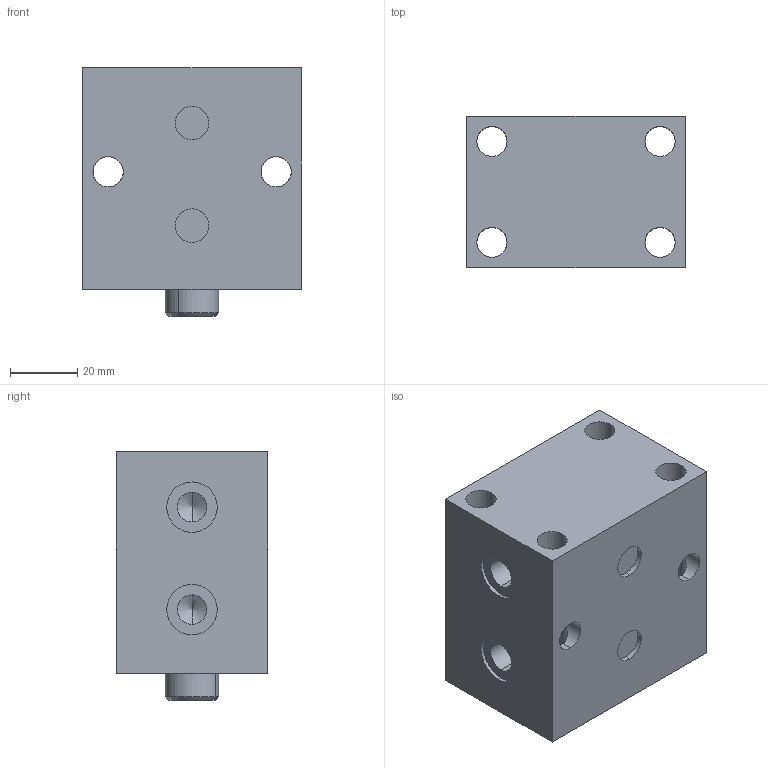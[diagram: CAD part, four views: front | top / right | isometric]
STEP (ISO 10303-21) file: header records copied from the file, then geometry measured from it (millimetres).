
FILE_DESCRIPTION (( 'STEP AP203' ), '1' );
FILE_NAME ('Body_116F.STEP', '2022-07-09T18:25:58', ( '' ), ( '' ), 'SwSTEP 2.0', 'SolidWorks 2017', '' );
FILE_SCHEMA (( 'CONFIG_CONTROL_DESIGN' ));
Length unit declared in the file: millimetre
Products named in the file (3): Body_116F; Piston_116F
Assembly tree (2 placements, depth 2):
  Body_116F
    Body_116F
    Piston_116F
Bounding box: 65 x 45 x 74 mm (x, y, z)
Volume: 174665.5 mm3; surface area: 35024.7 mm2
Topology: 2 solids, 2 shells, 331 faces, 919 edges, 607 vertices
Faces by surface type: plane 144, bspline 143, cylinder 36, cone 8
Entity records: 17444 total; most frequent: CARTESIAN_POINT 9631, ORIENTED_EDGE 1826, DIRECTION 1055, EDGE_CURVE 913, VERTEX_POINT 607, VECTOR 537, LINE 537, EDGE_LOOP 372
